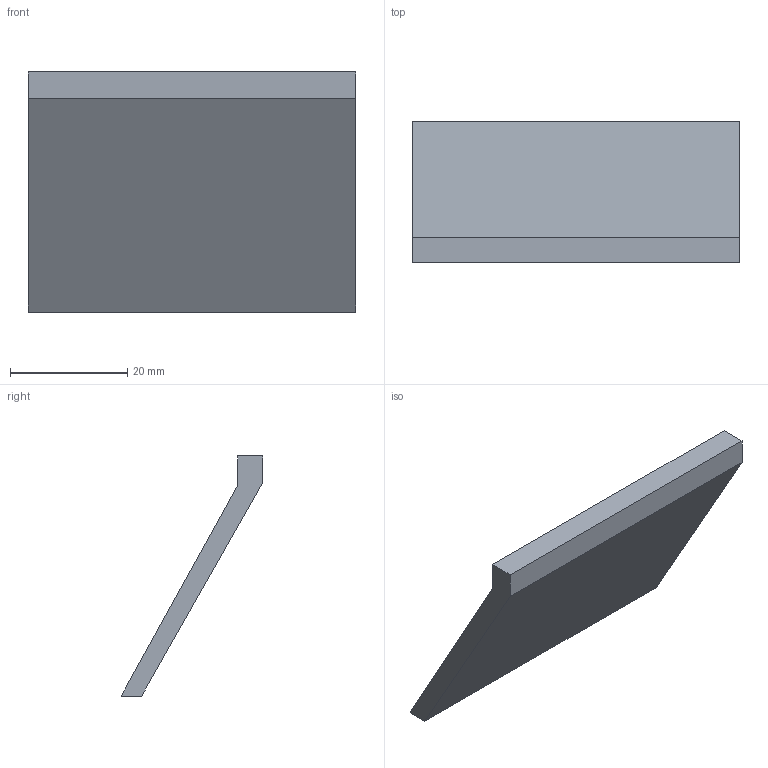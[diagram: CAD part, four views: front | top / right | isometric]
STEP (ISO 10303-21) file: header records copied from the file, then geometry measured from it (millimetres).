
FILE_DESCRIPTION(('Open CASCADE Model'),'2;1');
FILE_NAME('Open CASCADE Shape Model','2026-10-15T20:56:36',('Author'),( 'Open CASCADE'),'Open CASCADE STEP processor 7.9','Open CASCADE 7.9' ,'Unknown');
FILE_SCHEMA(('AUTOMOTIVE_DESIGN { 1 0 10303 214 1 1 1 1 }'));
Length unit declared in the file: millimetre
Products named in the file (1): Open CASCADE STEP translator 7.9 13
Bounding box: 56 x 24.19 x 41 mm (x, y, z)
Volume: 8776.7 mm3; surface area: 5935.3 mm2
Topology: 1 solids, 1 shells, 8 faces, 18 edges, 12 vertices
Faces by surface type: plane 8
Entity records: 466 total; most frequent: CARTESIAN_POINT 75, DIRECTION 72, LINE 54, VECTOR 54, ORIENTED_EDGE 36, PCURVE 36, DEFINITIONAL_REPRESENTATION 36, EDGE_CURVE 18
